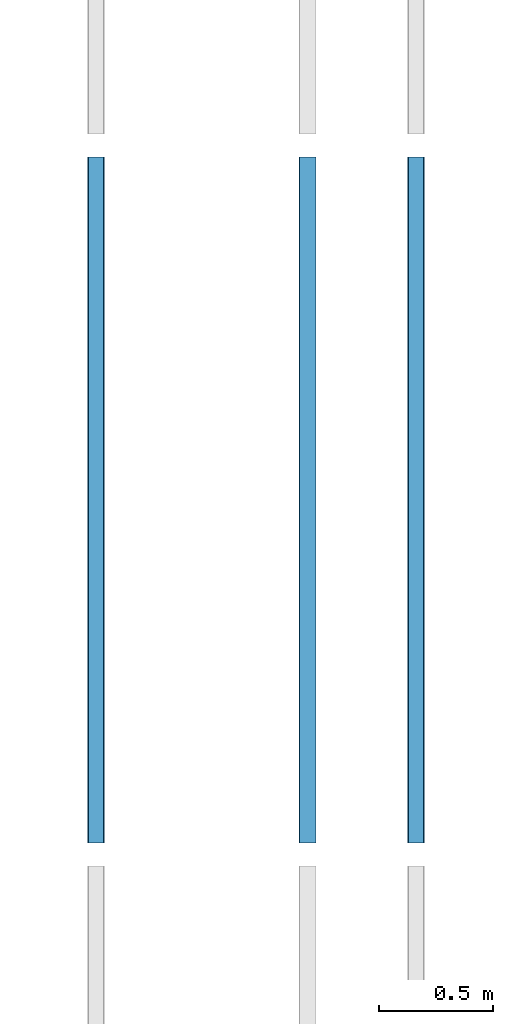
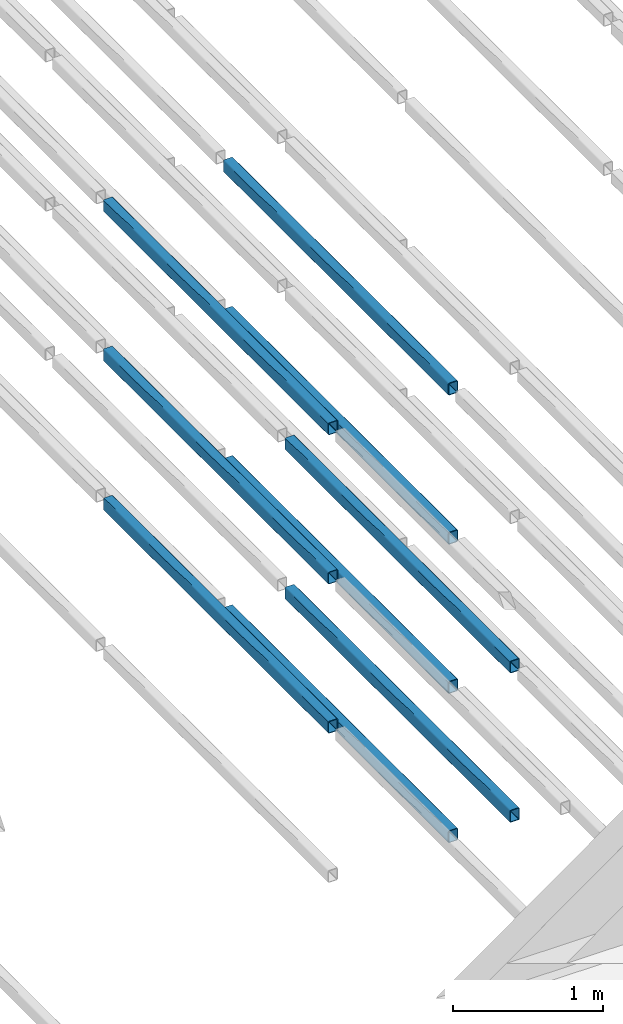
# One storey, part 29 of 290: 9 beams.
"""IFC2X3 building model written with IfcOpenShell, lengths in metres."""

import ifcopenshell
import ifcopenshell.guid

model = None  # the IFC model being written
_history = None  # IfcOwnerHistory: only IFC2X3 demands one
_inside = {}  # id of a spatial element -> (the spatial element, [elements in it])
_under = {}  # id of a project, library or spatial element -> (it, [spatial elements below it])
_declared = {}  # id of a project -> (the project, [libraries it declares])
_typed = {}  # id of a type object -> (the type object, [elements of that type])
_made_of = {}  # id of a material, layer set ... -> (it, [elements and type objects made of it])


def new_model(schema):
    """Start an empty IFC model of exactly this schema.

    Asked for "IFC4X3", IfcOpenShell would pick the latest addendum, in which some entities
    have other attributes; the version numbers below select the first issue.
    IFC2X3 requires an IfcOwnerHistory on every rooted entity: one is made here for all.
    """
    global model, _history
    if schema == "IFC4X3":
        model = ifcopenshell.file(schema_version=(4, 3, 0, 0))
    else:
        model = ifcopenshell.file(schema=schema)
    _inside.clear()
    _under.clear()
    _declared.clear()
    _typed.clear()
    _made_of.clear()
    _history = None
    if model.schema == "IFC2X3":
        org = make("IfcOrganization", Name="unknown")
        user = make(
            "IfcPersonAndOrganization",
            ThePerson=make("IfcPerson", FamilyName="unknown"),
            TheOrganization=org,
        )
        app = make(
            "IfcApplication",
            ApplicationDeveloper=org,
            Version="unknown",
            ApplicationFullName="unknown",
            ApplicationIdentifier="unknown",
        )
        _history = make(
            "IfcOwnerHistory",
            OwningUser=user,
            OwningApplication=app,
            ChangeAction="ADDED",
            CreationDate=0,
        )
    return model


def make(cls, **values):
    """One entity of the class cls with the attributes given. An attribute that is None is left unset."""
    return model.create_entity(
        cls, **{name: value for name, value in values.items() if value is not None}
    )


def entity(cls, *values):
    """Any entity or typed value of the class cls, its attributes in the order of the schema. None: left unset."""
    e = model.create_entity(cls)
    for i, value in enumerate(values):
        if value is not None:
            e[i] = value
    return e


def rooted(cls, **values):
    """An entity with a GlobalId (a new one), such as an element, a storey or a relation."""
    return make(cls, GlobalId=ifcopenshell.guid.new(), OwnerHistory=_history, **values)


def si_unit(unit_type, name, prefix=None):
    """IfcSIUnit, for example si_unit("LENGTHUNIT", "METRE", prefix="MILLI")."""
    return make("IfcSIUnit", UnitType=unit_type, Prefix=prefix, Name=name)


def converted_unit(unit_type, name, factor, base, dimensions=None, offset=None):
    """IfcConversionBasedUnit, such as the inch: factor (a typed value) times the base unit."""
    return make(
        "IfcConversionBasedUnit"
        if offset is None
        else "IfcConversionBasedUnitWithOffset",
        ConversionOffset=offset,
        Dimensions=None
        if dimensions is None
        else entity("IfcDimensionalExponents", *dimensions),
        UnitType=unit_type,
        Name=name,
        ConversionFactor=make(
            "IfcMeasureWithUnit", ValueComponent=factor, UnitComponent=base
        ),
    )


def derived_unit(unit_type, elements):
    """IfcDerivedUnit: a product of units, each with its exponent."""
    return make(
        "IfcDerivedUnit",
        Elements=[
            make("IfcDerivedUnitElement", Unit=unit, Exponent=power)
            for unit, power in elements
        ],
        UnitType=unit_type,
    )


def assignment(units):
    """IfcUnitAssignment: the units of a project."""
    return None if units is None else make("IfcUnitAssignment", Units=units)


def point(xyz):
    """IfcCartesianPoint."""
    return None if xyz is None else make("IfcCartesianPoint", Coordinates=xyz)


def direction(xyz):
    """IfcDirection."""
    return None if xyz is None else make("IfcDirection", DirectionRatios=xyz)


def frame(location, z_axis=None, x_axis=None):
    """IfcAxis2Placement3D, a coordinate frame: its origin and axes. An axis left out is left unset."""
    return make(
        "IfcAxis2Placement3D",
        Location=point(location),
        Axis=direction(z_axis),
        RefDirection=direction(x_axis),
    )


def frame_2d(location, x_axis=None):
    """IfcAxis2Placement2D, a coordinate frame in the plane: its origin and x axis."""
    return make(
        "IfcAxis2Placement2D", Location=point(location), RefDirection=direction(x_axis)
    )


def origin():
    """The frame at (0, 0, 0) with its axes left unset."""
    return frame((0.0, 0.0, 0.0))


def place(relative_to, where):
    """IfcLocalPlacement: puts the frame where relative to a parent placement (None: the world)."""
    return make(
        "IfcLocalPlacement", PlacementRelTo=relative_to, RelativePlacement=where
    )


def context(
    kind, dimensions, precision=None, world=None, true_north=None, identifier=None
):
    """IfcGeometricRepresentationContext, for example the 3D "Model" context."""
    return make(
        "IfcGeometricRepresentationContext",
        ContextIdentifier=identifier,
        ContextType=kind,
        CoordinateSpaceDimension=dimensions,
        Precision=precision,
        WorldCoordinateSystem=world,
        TrueNorth=true_north,
    )


def subcontext(parent, identifier, kind, view, scale=None):
    """IfcGeometricRepresentationSubContext, for example "Body" below "Model"."""
    return make(
        "IfcGeometricRepresentationSubContext",
        ContextIdentifier=identifier,
        ContextType=kind,
        ParentContext=parent,
        TargetScale=scale,
        TargetView=view,
    )


def project(units=None, contexts=None):
    """IfcProject with its units and contexts."""
    return rooted(
        "IfcProject",
        Name="project",
        RepresentationContexts=contexts,
        UnitsInContext=assignment(units),
    )


def spatial(cls, under=None, at=None, **own):
    """A site, building, storey or space (cls), placed at a placement, below another one or the project."""
    s = rooted(cls, ObjectPlacement=at, **own)
    if under is not None:
        _under.setdefault(under.id(), (under, []))[1].append(s)
    return s


def polyline(points):
    """IfcPolyline through the points."""
    return make("IfcPolyline", Points=[point(p) for p in points])


def circle_curve(where, radius):
    """IfcCircle in the frame where."""
    return make("IfcCircle", Position=where, Radius=radius)


def parameter(value):
    """IfcParameterValue: where a trimmed curve begins or ends, as a parameter of its basis curve."""
    return model.create_entity("IfcParameterValue", value)


def trimmed(basis, trim1, trim2, sense, master):
    """IfcTrimmedCurve: the piece of a basis curve between two trims."""
    return make(
        "IfcTrimmedCurve",
        BasisCurve=basis,
        Trim1=trim1,
        Trim2=trim2,
        SenseAgreement=sense,
        MasterRepresentation=master,
    )


def segment(curve, same_sense, transition):
    """IfcCompositeCurveSegment."""
    return make(
        "IfcCompositeCurveSegment",
        Transition=transition,
        SameSense=same_sense,
        ParentCurve=curve,
    )


def composite_curve(segments, self_intersect=None):
    """IfcCompositeCurve: segments joined end to end."""
    return make("IfcCompositeCurve", Segments=segments, SelfIntersect=self_intersect)


def outline(outer, holes=None, kind="AREA"):
    """IfcArbitraryClosedProfileDef: a profile drawn as a closed curve; with holes, ...WithVoids."""
    if holes is None:
        return make("IfcArbitraryClosedProfileDef", ProfileType=kind, OuterCurve=outer)
    return make(
        "IfcArbitraryProfileDefWithVoids",
        ProfileType=kind,
        OuterCurve=outer,
        InnerCurves=holes,
    )


def extrude(swept, where, along, depth):
    """IfcExtrudedAreaSolid: the profile swept, set in the frame where, extruded along a direction by depth."""
    return make(
        "IfcExtrudedAreaSolid",
        SweptArea=swept,
        Position=where,
        ExtrudedDirection=direction(along),
        Depth=depth,
    )


def shape(context_of_items, identifier, shape_type, items):
    """IfcShapeRepresentation: the items that make up one representation, for example the "Body"."""
    return make(
        "IfcShapeRepresentation",
        ContextOfItems=context_of_items,
        RepresentationIdentifier=identifier,
        RepresentationType=shape_type,
        Items=items,
    )


def material(Name=None, Category=None):
    """IfcMaterial."""
    return make("IfcMaterial", Name=Name, Category=Category)


def made_of(thing, what):
    """Note that an element or type object is made of a material, layer set ...; save() writes the relation."""
    if what is not None:
        _made_of.setdefault(what.id(), (what, []))[1].append(thing)
    return thing


def type_object(cls, material=None, **own):
    """A type object (cls), such as IfcWallType, which elements share."""
    return made_of(rooted(cls, **own), material)


def element(
    cls,
    number,
    at=None,
    inside=None,
    cuts=None,
    type_object=None,
    material=None,
    context=None,
    identifier="Body",
    shape_type=None,
    held_by="IfcProductDefinitionShape",
    body=None,
    shapes=None,
    **own,
):
    """One element of the class cls, such as IfcWall. Its Tag is "e" and its number.

    at: its placement. inside: the storey or other place that contains it. cuts: it is an
    opening in that element (IfcRelVoidsElement). A single representation is given by context,
    identifier, shape_type and body (its items); several are given by shapes. held_by: the class
    of the entity that holds the representations. save() writes the other relations.
    """
    e = rooted(cls, Tag="e%d" % number, ObjectPlacement=at, **own)
    if body is not None:
        shapes = [shape(context, identifier, shape_type, body)]
    if shapes is not None:
        e.Representation = make(held_by, Representations=shapes)
    if inside is not None:
        _inside.setdefault(inside.id(), (inside, []))[1].append(e)
    if cuts is not None:
        rooted(
            "IfcRelVoidsElement", RelatingBuildingElement=cuts, RelatedOpeningElement=e
        )
    if type_object is not None:
        _typed.setdefault(type_object.id(), (type_object, []))[1].append(e)
    return made_of(e, material)


def aggregate(whole, parts):
    """IfcRelAggregates: a whole, such as a stair, and the parts it consists of."""
    return rooted("IfcRelAggregates", RelatingObject=whole, RelatedObjects=parts)


def save(model, path):
    """Write the relations noted so far, then the file.

    IfcRelAggregates (storeys below a building ...), IfcRelContainedInSpatialStructure (elements
    in a storey), IfcRelDefinesByType, IfcRelAssociatesMaterial and IfcRelDeclares: one each for
    every whole, place, type object, material and project.
    """
    for whole, parts in _under.values():
        aggregate(whole, parts)
    for where, things in _inside.values():
        rooted(
            "IfcRelContainedInSpatialStructure",
            RelatedElements=things,
            RelatingStructure=where,
        )
    for kind, things in _typed.values():
        rooted("IfcRelDefinesByType", RelatedObjects=things, RelatingType=kind)
    for what, things in _made_of.values():
        rooted("IfcRelAssociatesMaterial", RelatedObjects=things, RelatingMaterial=what)
    for by, libraries in _declared.values():
        rooted("IfcRelDeclares", RelatingContext=by, RelatedDefinitions=libraries)
    model.write(path)


model = new_model("IFC2X3")

# Units and contexts
model_context = context("Model", 3, precision=1e-05, world=origin(), true_north=direction((6.12303176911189e-17, 1.0)))
body_context = subcontext(model_context, "Body", "Model", "MODEL_VIEW")
ifc_project = project(units=[si_unit("LENGTHUNIT", "METRE"), si_unit("AREAUNIT", "SQUARE_METRE"), si_unit("VOLUMEUNIT", "CUBIC_METRE"), converted_unit("PLANEANGLEUNIT", "DEGREE", entity("IfcRatioMeasure", 0.0174532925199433), si_unit("PLANEANGLEUNIT", "RADIAN"), dimensions=[0, 0, 0, 0, 0, 0, 0]), si_unit("MASSUNIT", "GRAM", prefix="KILO"), derived_unit("MASSDENSITYUNIT", [(si_unit("MASSUNIT", "GRAM", prefix="KILO"), 1), (si_unit("LENGTHUNIT", "METRE"), -3)]), derived_unit("MOMENTOFINERTIAUNIT", [(si_unit("LENGTHUNIT", "METRE"), 4)]), si_unit("TIMEUNIT", "SECOND"), si_unit("FREQUENCYUNIT", "HERTZ"), si_unit("THERMODYNAMICTEMPERATUREUNIT", "DEGREE_CELSIUS"), derived_unit("THERMALTRANSMITTANCEUNIT", [(si_unit("MASSUNIT", "GRAM", prefix="KILO"), 1), (si_unit("THERMODYNAMICTEMPERATUREUNIT", "KELVIN"), -1), (si_unit("TIMEUNIT", "SECOND"), -3)]), derived_unit("VOLUMETRICFLOWRATEUNIT", [(si_unit("LENGTHUNIT", "METRE"), 3), (si_unit("TIMEUNIT", "SECOND"), -1)]), si_unit("ELECTRICCURRENTUNIT", "AMPERE"), si_unit("ELECTRICVOLTAGEUNIT", "VOLT"), si_unit("POWERUNIT", "WATT"), si_unit("FORCEUNIT", "NEWTON", prefix="KILO"), si_unit("ILLUMINANCEUNIT", "LUX"), si_unit("LUMINOUSFLUXUNIT", "LUMEN"), si_unit("LUMINOUSINTENSITYUNIT", "CANDELA"), derived_unit("USERDEFINED", [(si_unit("MASSUNIT", "GRAM", prefix="KILO"), -1), (si_unit("LENGTHUNIT", "METRE"), -2), (si_unit("TIMEUNIT", "SECOND"), 3), (si_unit("LUMINOUSFLUXUNIT", "LUMEN"), 1)]), derived_unit("LINEARVELOCITYUNIT", [(si_unit("LENGTHUNIT", "METRE"), 1), (si_unit("TIMEUNIT", "SECOND"), -1)]), si_unit("PRESSUREUNIT", "PASCAL"), derived_unit("USERDEFINED", [(si_unit("LENGTHUNIT", "METRE"), -2), (si_unit("MASSUNIT", "GRAM", prefix="KILO"), 1), (si_unit("TIMEUNIT", "SECOND"), -2)]), derived_unit("LINEARFORCEUNIT", [(si_unit("MASSUNIT", "GRAM", prefix="KILO"), 1), (si_unit("LENGTHUNIT", "METRE"), 1), (si_unit("TIMEUNIT", "SECOND"), -2), (si_unit("LENGTHUNIT", "METRE"), -1)]), derived_unit("PLANARFORCEUNIT", [(si_unit("MASSUNIT", "GRAM", prefix="KILO"), 1), (si_unit("LENGTHUNIT", "METRE"), 1), (si_unit("TIMEUNIT", "SECOND"), -2), (si_unit("LENGTHUNIT", "METRE"), -2)])], contexts=[model_context])

# Site, building, storey
site_placement = place(None, origin())
site = spatial("IfcSite", under=ifc_project, at=site_placement, Name="Default", CompositionType="ELEMENT")
building_placement = place(site_placement, origin())
building = spatial("IfcBuilding", under=site, at=building_placement, CompositionType="ELEMENT")
storey_placement = place(building_placement, frame((0.0, 0.0, 4.0)))
storey = spatial("IfcBuildingStorey", under=building, at=storey_placement, Name="01_OG", CompositionType="ELEMENT", Elevation=4.0)

# Beams
ifc_material = material(Name="Metall - Baustahl S235 blau")
beam_type = type_object("IfcBeamType", Name="RHS Träger (EN 10219-2):RHS 100 x 75 x 5", PredefinedType="NOTDEFINED")
beam_1_placement = place(storey_placement, frame((-185.015111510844, 27.148088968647, 0.0150000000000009), z_axis=(0.0, 0.0, 1.0), x_axis=(0.0, 1.0, 0.0)))
element("IfcBeam", 1, at=beam_1_placement, inside=storey, type_object=beam_type, material=ifc_material, Name="RHS Träger (EN 10219-2):RHS 100 x 75 x 5", ObjectType="RHS Träger (EN 10219-2):RHS 100 x 75 x 5", context=body_context, shape_type="SweptSolid", body=[
    extrude(outline(composite_curve([segment(trimmed(circle_curve(frame_2d((-0.0274999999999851, -0.0400000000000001), x_axis=(1.0, 0.0)), 0.01), [parameter(180.0)], [parameter(270.0)], True, "PARAMETER"), True, "CONTINUOUS"), segment(polyline([(-0.0274999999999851, -0.05), (0.0274999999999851, -0.05)]), True, "CONTINUOUS"), segment(trimmed(circle_curve(frame_2d((0.0274999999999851, -0.0400000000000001), x_axis=(1.0, 0.0)), 0.01), [parameter(270.0)], [parameter(5.08888749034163e-14)], True, "PARAMETER"), True, "CONTINUOUS"), segment(polyline([(0.0375000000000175, -0.0400000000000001), (0.0375000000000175, 0.0400000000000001)]), True, "CONTINUOUS"), segment(trimmed(circle_curve(frame_2d((0.0274999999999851, 0.0400000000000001), x_axis=(1.0, 0.0)), 0.01), [parameter(360.0)], [parameter(89.9999999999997)], True, "PARAMETER"), True, "CONTINUOUS"), segment(polyline([(0.0274999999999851, 0.05), (-0.0274999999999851, 0.05)]), True, "CONTINUOUS"), segment(trimmed(circle_curve(frame_2d((-0.0274999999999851, 0.0400000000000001), x_axis=(1.0, 0.0)), 0.01), [parameter(90.0000000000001)], [parameter(180.0)], True, "PARAMETER"), True, "CONTINUOUS"), segment(polyline([(-0.0374999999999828, 0.0400000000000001), (-0.0374999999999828, -0.0400000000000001)]), True, "CONTINUOUS")], self_intersect=False), holes=[composite_curve([segment(polyline([(0.0274999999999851, -0.0450000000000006), (-0.0274999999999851, -0.0450000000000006)]), True, "CONTINUOUS"), segment(trimmed(circle_curve(frame_2d((-0.0274999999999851, -0.0400000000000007), x_axis=(1.0, 0.0)), 0.005), [parameter(180.0)], [parameter(270.0)], True, "PARAMETER"), False, "CONTINUOUS"), segment(polyline([(-0.0325000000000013, -0.0400000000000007), (-0.0325000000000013, 0.039999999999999)]), True, "CONTINUOUS"), segment(trimmed(circle_curve(frame_2d((-0.0274999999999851, 0.039999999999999), x_axis=(1.0, 0.0)), 0.005), [parameter(90.0000000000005)], [parameter(180.0)], True, "PARAMETER"), False, "CONTINUOUS"), segment(polyline([(-0.0274999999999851, 0.044999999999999), (0.0274999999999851, 0.044999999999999)]), True, "CONTINUOUS"), segment(trimmed(circle_curve(frame_2d((0.0274999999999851, 0.039999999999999), x_axis=(1.0, 0.0)), 0.005), [parameter(0.0)], [parameter(90.0000000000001)], True, "PARAMETER"), False, "CONTINUOUS"), segment(polyline([(0.0325000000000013, 0.039999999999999), (0.0325000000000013, -0.0400000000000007)]), True, "CONTINUOUS"), segment(trimmed(circle_curve(frame_2d((0.0274999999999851, -0.0400000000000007), x_axis=(1.0, 0.0)), 0.005), [parameter(270.0)], [parameter(4.07110999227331e-13)], True, "PARAMETER"), False, "CONTINUOUS")], self_intersect=False)]), frame((9.99999999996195e-05, 0.0375000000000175, -0.0500000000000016), z_axis=(1.0, 0.0, 0.0), x_axis=(0.0, -1.0, 0.0)), (0.0, 0.0, 1.0), 2.9998),
])
beam_2_placement = place(storey_placement, frame((-185.015111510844, 27.148088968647, 1.23), z_axis=(0.0, 0.0, 1.0), x_axis=(0.0, 1.0, 0.0)))
element("IfcBeam", 2, at=beam_2_placement, inside=storey, type_object=beam_type, material=ifc_material, Name="RHS Träger (EN 10219-2):RHS 100 x 75 x 5", ObjectType="RHS Träger (EN 10219-2):RHS 100 x 75 x 5", context=body_context, shape_type="SweptSolid", body=[
    extrude(outline(composite_curve([segment(trimmed(circle_curve(frame_2d((-0.0274999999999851, -0.0399999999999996), x_axis=(1.0, 0.0)), 0.01), [parameter(180.0)], [parameter(270.0)], True, "PARAMETER"), True, "CONTINUOUS"), segment(polyline([(-0.0274999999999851, -0.0499999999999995), (0.0274999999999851, -0.0499999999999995)]), True, "CONTINUOUS"), segment(trimmed(circle_curve(frame_2d((0.0274999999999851, -0.0399999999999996), x_axis=(1.0, 0.0)), 0.01), [parameter(270.0)], [parameter(5.08888749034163e-14)], True, "PARAMETER"), True, "CONTINUOUS"), segment(polyline([(0.0375000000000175, -0.0399999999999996), (0.0375000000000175, 0.0399999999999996)]), True, "CONTINUOUS"), segment(trimmed(circle_curve(frame_2d((0.0274999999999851, 0.0399999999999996), x_axis=(1.0, 0.0)), 0.01), [parameter(360.0)], [parameter(89.9999999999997)], True, "PARAMETER"), True, "CONTINUOUS"), segment(polyline([(0.0274999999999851, 0.0500000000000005), (-0.0274999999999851, 0.0500000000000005)]), True, "CONTINUOUS"), segment(trimmed(circle_curve(frame_2d((-0.0274999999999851, 0.0399999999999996), x_axis=(1.0, 0.0)), 0.01), [parameter(90.0000000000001)], [parameter(180.0)], True, "PARAMETER"), True, "CONTINUOUS"), segment(polyline([(-0.0374999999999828, 0.0399999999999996), (-0.0374999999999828, -0.0399999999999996)]), True, "CONTINUOUS")], self_intersect=False), holes=[composite_curve([segment(polyline([(0.0274999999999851, -0.0450000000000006), (-0.0274999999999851, -0.0450000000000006)]), True, "CONTINUOUS"), segment(trimmed(circle_curve(frame_2d((-0.0274999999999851, -0.0400000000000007), x_axis=(1.0, 0.0)), 0.005), [parameter(180.0)], [parameter(270.0)], True, "PARAMETER"), False, "CONTINUOUS"), segment(polyline([(-0.0325000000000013, -0.0400000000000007), (-0.0325000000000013, 0.0399999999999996)]), True, "CONTINUOUS"), segment(trimmed(circle_curve(frame_2d((-0.0274999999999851, 0.0399999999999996), x_axis=(1.0, 0.0)), 0.005), [parameter(90.0000000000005)], [parameter(180.0)], True, "PARAMETER"), False, "CONTINUOUS"), segment(polyline([(-0.0274999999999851, 0.0449999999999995), (0.0274999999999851, 0.0449999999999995)]), True, "CONTINUOUS"), segment(trimmed(circle_curve(frame_2d((0.0274999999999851, 0.0399999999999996), x_axis=(1.0, 0.0)), 0.005), [parameter(0.0)], [parameter(90.0000000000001)], True, "PARAMETER"), False, "CONTINUOUS"), segment(polyline([(0.0325000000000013, 0.0399999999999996), (0.0325000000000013, -0.0400000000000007)]), True, "CONTINUOUS"), segment(trimmed(circle_curve(frame_2d((0.0274999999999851, -0.0400000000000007), x_axis=(1.0, 0.0)), 0.005), [parameter(270.0)], [parameter(4.07110999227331e-13)], True, "PARAMETER"), False, "CONTINUOUS")], self_intersect=False)]), frame((9.99999999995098e-05, 0.0375000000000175, -0.0500000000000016), z_axis=(1.0, 0.0, 0.0), x_axis=(0.0, -1.0, 0.0)), (0.0, 0.0, 1.0), 2.9998),
])
beam_3_placement = place(storey_placement, frame((-185.015111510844, 27.148088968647, 2.445), z_axis=(0.0, 0.0, 1.0), x_axis=(0.0, 1.0, 0.0)))
element("IfcBeam", 3, at=beam_3_placement, inside=storey, type_object=beam_type, material=ifc_material, Name="RHS Träger (EN 10219-2):RHS 100 x 75 x 5", ObjectType="RHS Träger (EN 10219-2):RHS 100 x 75 x 5", context=body_context, shape_type="SweptSolid", body=[
    extrude(outline(composite_curve([segment(trimmed(circle_curve(frame_2d((-0.0274999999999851, -0.0399999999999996), x_axis=(1.0, 0.0)), 0.01), [parameter(180.0)], [parameter(270.0)], True, "PARAMETER"), True, "CONTINUOUS"), segment(polyline([(-0.0274999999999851, -0.0499999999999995), (0.0274999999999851, -0.0499999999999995)]), True, "CONTINUOUS"), segment(trimmed(circle_curve(frame_2d((0.0274999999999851, -0.0399999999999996), x_axis=(1.0, 0.0)), 0.01), [parameter(270.0)], [parameter(5.08888749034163e-14)], True, "PARAMETER"), True, "CONTINUOUS"), segment(polyline([(0.0375000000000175, -0.0399999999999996), (0.0375000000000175, 0.0399999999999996)]), True, "CONTINUOUS"), segment(trimmed(circle_curve(frame_2d((0.0274999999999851, 0.0399999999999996), x_axis=(1.0, 0.0)), 0.01), [parameter(360.0)], [parameter(89.9999999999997)], True, "PARAMETER"), True, "CONTINUOUS"), segment(polyline([(0.0274999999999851, 0.0500000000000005), (-0.0274999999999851, 0.0500000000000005)]), True, "CONTINUOUS"), segment(trimmed(circle_curve(frame_2d((-0.0274999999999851, 0.0399999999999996), x_axis=(1.0, 0.0)), 0.01), [parameter(90.0000000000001)], [parameter(180.0)], True, "PARAMETER"), True, "CONTINUOUS"), segment(polyline([(-0.0374999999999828, 0.0399999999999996), (-0.0374999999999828, -0.0399999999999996)]), True, "CONTINUOUS")], self_intersect=False), holes=[composite_curve([segment(polyline([(0.0274999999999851, -0.0450000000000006), (-0.0274999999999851, -0.0450000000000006)]), True, "CONTINUOUS"), segment(trimmed(circle_curve(frame_2d((-0.0274999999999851, -0.0400000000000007), x_axis=(1.0, 0.0)), 0.005), [parameter(180.0)], [parameter(270.0)], True, "PARAMETER"), False, "CONTINUOUS"), segment(polyline([(-0.0325000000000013, -0.0400000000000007), (-0.0325000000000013, 0.0399999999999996)]), True, "CONTINUOUS"), segment(trimmed(circle_curve(frame_2d((-0.0274999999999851, 0.0399999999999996), x_axis=(1.0, 0.0)), 0.005), [parameter(90.0000000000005)], [parameter(180.0)], True, "PARAMETER"), False, "CONTINUOUS"), segment(polyline([(-0.0274999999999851, 0.0449999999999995), (0.0274999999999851, 0.0449999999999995)]), True, "CONTINUOUS"), segment(trimmed(circle_curve(frame_2d((0.0274999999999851, 0.0399999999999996), x_axis=(1.0, 0.0)), 0.005), [parameter(0.0)], [parameter(90.0000000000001)], True, "PARAMETER"), False, "CONTINUOUS"), segment(polyline([(0.0325000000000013, 0.0399999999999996), (0.0325000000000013, -0.0400000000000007)]), True, "CONTINUOUS"), segment(trimmed(circle_curve(frame_2d((0.0274999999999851, -0.0400000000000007), x_axis=(1.0, 0.0)), 0.005), [parameter(270.0)], [parameter(4.07110999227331e-13)], True, "PARAMETER"), False, "CONTINUOUS")], self_intersect=False)]), frame((9.99999999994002e-05, 0.0375000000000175, -0.0500000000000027), z_axis=(1.0, 0.0, 0.0), x_axis=(0.0, -1.0, 0.0)), (0.0, 0.0, 1.0), 2.9998),
])
beam_4_placement = place(storey_placement, frame((-184.165111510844, 27.148088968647, -1.2), z_axis=(0.0, 0.0, 1.0), x_axis=(0.0, 1.0, 0.0)))
element("IfcBeam", 4, at=beam_4_placement, inside=storey, type_object=beam_type, material=ifc_material, Name="RHS Träger (EN 10219-2):RHS 100 x 75 x 5", ObjectType="RHS Träger (EN 10219-2):RHS 100 x 75 x 5", context=body_context, shape_type="SweptSolid", body=[
    extrude(outline(composite_curve([segment(polyline([(-0.0400000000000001, -0.0374999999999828), (0.0400000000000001, -0.0374999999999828)]), True, "CONTINUOUS"), segment(trimmed(circle_curve(frame_2d((0.0400000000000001, -0.0274999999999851), x_axis=(0.0, 1.0)), 0.01), [parameter(180.0)], [parameter(270.0)], True, "PARAMETER"), True, "CONTINUOUS"), segment(polyline([(0.05, -0.0274999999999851), (0.05, 0.0274999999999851)]), True, "CONTINUOUS"), segment(trimmed(circle_curve(frame_2d((0.0400000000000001, 0.0274999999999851), x_axis=(0.0, 1.0)), 0.01), [parameter(270.0)], [parameter(4.07110999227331e-13)], True, "PARAMETER"), True, "CONTINUOUS"), segment(polyline([(0.0400000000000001, 0.0375000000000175), (-0.0400000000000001, 0.0375000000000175)]), True, "CONTINUOUS"), segment(trimmed(circle_curve(frame_2d((-0.0400000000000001, 0.0274999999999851), x_axis=(0.0, 1.0)), 0.01), [parameter(360.0)], [parameter(90.0000000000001)], True, "PARAMETER"), True, "CONTINUOUS"), segment(polyline([(-0.05, 0.0274999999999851), (-0.05, -0.0274999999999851)]), True, "CONTINUOUS"), segment(trimmed(circle_curve(frame_2d((-0.0400000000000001, -0.0274999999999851), x_axis=(0.0, 1.0)), 0.01), [parameter(90.0000000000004)], [parameter(180.0)], True, "PARAMETER"), True, "CONTINUOUS")], self_intersect=False), holes=[composite_curve([segment(trimmed(circle_curve(frame_2d((-0.0400000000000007, 0.0274999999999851), x_axis=(0.0, 1.0)), 0.005), [parameter(360.0)], [parameter(89.9999999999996)], True, "PARAMETER"), False, "CONTINUOUS"), segment(polyline([(-0.0400000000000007, 0.0325000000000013), (0.039999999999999, 0.0325000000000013)]), True, "CONTINUOUS"), segment(trimmed(circle_curve(frame_2d((0.039999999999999, 0.0274999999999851), x_axis=(0.0, 1.0)), 0.005), [parameter(270.0)], [parameter(0.0)], True, "PARAMETER"), False, "CONTINUOUS"), segment(polyline([(0.044999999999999, 0.0274999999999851), (0.044999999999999, -0.0274999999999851)]), True, "CONTINUOUS"), segment(trimmed(circle_curve(frame_2d((0.039999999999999, -0.0274999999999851), x_axis=(0.0, 1.0)), 0.005), [parameter(180.0)], [parameter(269.999999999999)], True, "PARAMETER"), False, "CONTINUOUS"), segment(polyline([(0.039999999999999, -0.0325000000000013), (-0.0400000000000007, -0.0325000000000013)]), True, "CONTINUOUS"), segment(trimmed(circle_curve(frame_2d((-0.0400000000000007, -0.0274999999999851), x_axis=(0.0, 1.0)), 0.005), [parameter(90.0000000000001)], [parameter(180.0)], True, "PARAMETER"), False, "CONTINUOUS"), segment(polyline([(-0.0450000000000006, -0.0274999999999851), (-0.0450000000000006, 0.0274999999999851)]), True, "CONTINUOUS")], self_intersect=False)]), frame((9.99999999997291e-05, -0.0375000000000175, -0.0500000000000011), z_axis=(1.0, 0.0, 0.0), x_axis=(0.0, 0.0, -1.0)), (0.0, 0.0, 1.0), 2.9998),
])
beam_5_placement = place(storey_placement, frame((-184.165111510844, 27.148088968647, 0.0150000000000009), z_axis=(0.0, 0.0, 1.0), x_axis=(0.0, 1.0, 0.0)))
element("IfcBeam", 5, at=beam_5_placement, inside=storey, type_object=beam_type, material=ifc_material, Name="RHS Träger (EN 10219-2):RHS 100 x 75 x 5", ObjectType="RHS Träger (EN 10219-2):RHS 100 x 75 x 5", context=body_context, shape_type="SweptSolid", body=[
    extrude(outline(composite_curve([segment(polyline([(-0.0400000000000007, -0.0374999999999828), (0.0399999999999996, -0.0374999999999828)]), True, "CONTINUOUS"), segment(trimmed(circle_curve(frame_2d((0.0399999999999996, -0.0274999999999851), x_axis=(0.0, 1.0)), 0.01), [parameter(180.0)], [parameter(270.0)], True, "PARAMETER"), True, "CONTINUOUS"), segment(polyline([(0.0499999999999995, -0.0274999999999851), (0.0499999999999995, 0.0274999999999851)]), True, "CONTINUOUS"), segment(trimmed(circle_curve(frame_2d((0.0399999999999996, 0.0274999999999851), x_axis=(0.0, 1.0)), 0.01), [parameter(270.0)], [parameter(4.07110999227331e-13)], True, "PARAMETER"), True, "CONTINUOUS"), segment(polyline([(0.0399999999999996, 0.0375000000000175), (-0.0400000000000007, 0.0375000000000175)]), True, "CONTINUOUS"), segment(trimmed(circle_curve(frame_2d((-0.0400000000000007, 0.0274999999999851), x_axis=(0.0, 1.0)), 0.01), [parameter(360.0)], [parameter(90.0000000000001)], True, "PARAMETER"), True, "CONTINUOUS"), segment(polyline([(-0.0500000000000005, 0.0274999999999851), (-0.0500000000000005, -0.0274999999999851)]), True, "CONTINUOUS"), segment(trimmed(circle_curve(frame_2d((-0.0400000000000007, -0.0274999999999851), x_axis=(0.0, 1.0)), 0.01), [parameter(90.0000000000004)], [parameter(180.0)], True, "PARAMETER"), True, "CONTINUOUS")], self_intersect=False), holes=[composite_curve([segment(trimmed(circle_curve(frame_2d((-0.0400000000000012, 0.0274999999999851), x_axis=(0.0, 1.0)), 0.005), [parameter(360.0)], [parameter(89.9999999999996)], True, "PARAMETER"), False, "CONTINUOUS"), segment(polyline([(-0.0400000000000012, 0.0325000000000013), (0.0399999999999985, 0.0325000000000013)]), True, "CONTINUOUS"), segment(trimmed(circle_curve(frame_2d((0.0399999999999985, 0.0274999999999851), x_axis=(0.0, 1.0)), 0.005), [parameter(270.0)], [parameter(0.0)], True, "PARAMETER"), False, "CONTINUOUS"), segment(polyline([(0.0449999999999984, 0.0274999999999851), (0.0449999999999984, -0.0274999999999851)]), True, "CONTINUOUS"), segment(trimmed(circle_curve(frame_2d((0.0399999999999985, -0.0274999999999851), x_axis=(0.0, 1.0)), 0.005), [parameter(180.0)], [parameter(269.999999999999)], True, "PARAMETER"), False, "CONTINUOUS"), segment(polyline([(0.0399999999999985, -0.0325000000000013), (-0.0400000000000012, -0.0325000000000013)]), True, "CONTINUOUS"), segment(trimmed(circle_curve(frame_2d((-0.0400000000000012, -0.0274999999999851), x_axis=(0.0, 1.0)), 0.005), [parameter(90.0000000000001)], [parameter(180.0)], True, "PARAMETER"), False, "CONTINUOUS"), segment(polyline([(-0.0450000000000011, -0.0274999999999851), (-0.0450000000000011, 0.0274999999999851)]), True, "CONTINUOUS")], self_intersect=False)]), frame((9.99999999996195e-05, -0.0375000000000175, -0.0500000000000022), z_axis=(1.0, 0.0, 0.0), x_axis=(0.0, 0.0, -1.0)), (0.0, 0.0, 1.0), 2.9998),
])
beam_6_placement = place(storey_placement, frame((-184.165111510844, 27.148088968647, 1.23), z_axis=(0.0, 0.0, 1.0), x_axis=(0.0, 1.0, 0.0)))
element("IfcBeam", 6, at=beam_6_placement, inside=storey, type_object=beam_type, material=ifc_material, Name="RHS Träger (EN 10219-2):RHS 100 x 75 x 5", ObjectType="RHS Träger (EN 10219-2):RHS 100 x 75 x 5", context=body_context, shape_type="SweptSolid", body=[
    extrude(outline(composite_curve([segment(polyline([(-0.0399999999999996, -0.0374999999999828), (0.0399999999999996, -0.0374999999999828)]), True, "CONTINUOUS"), segment(trimmed(circle_curve(frame_2d((0.0399999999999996, -0.0274999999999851), x_axis=(0.0, 1.0)), 0.01), [parameter(180.0)], [parameter(270.0)], True, "PARAMETER"), True, "CONTINUOUS"), segment(polyline([(0.0500000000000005, -0.0274999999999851), (0.0500000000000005, 0.0274999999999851)]), True, "CONTINUOUS"), segment(trimmed(circle_curve(frame_2d((0.0399999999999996, 0.0274999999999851), x_axis=(0.0, 1.0)), 0.01), [parameter(270.0)], [parameter(4.07110999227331e-13)], True, "PARAMETER"), True, "CONTINUOUS"), segment(polyline([(0.0399999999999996, 0.0375000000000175), (-0.0399999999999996, 0.0375000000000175)]), True, "CONTINUOUS"), segment(trimmed(circle_curve(frame_2d((-0.0399999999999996, 0.0274999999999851), x_axis=(0.0, 1.0)), 0.01), [parameter(360.0)], [parameter(90.0000000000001)], True, "PARAMETER"), True, "CONTINUOUS"), segment(polyline([(-0.0499999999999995, 0.0274999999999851), (-0.0499999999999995, -0.0274999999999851)]), True, "CONTINUOUS"), segment(trimmed(circle_curve(frame_2d((-0.0399999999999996, -0.0274999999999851), x_axis=(0.0, 1.0)), 0.01), [parameter(90.0000000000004)], [parameter(180.0)], True, "PARAMETER"), True, "CONTINUOUS")], self_intersect=False), holes=[composite_curve([segment(trimmed(circle_curve(frame_2d((-0.0400000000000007, 0.0274999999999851), x_axis=(0.0, 1.0)), 0.005), [parameter(360.0)], [parameter(89.9999999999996)], True, "PARAMETER"), False, "CONTINUOUS"), segment(polyline([(-0.0400000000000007, 0.0325000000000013), (0.0399999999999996, 0.0325000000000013)]), True, "CONTINUOUS"), segment(trimmed(circle_curve(frame_2d((0.0399999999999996, 0.0274999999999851), x_axis=(0.0, 1.0)), 0.005), [parameter(270.0)], [parameter(0.0)], True, "PARAMETER"), False, "CONTINUOUS"), segment(polyline([(0.0449999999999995, 0.0274999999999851), (0.0449999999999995, -0.0274999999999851)]), True, "CONTINUOUS"), segment(trimmed(circle_curve(frame_2d((0.0399999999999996, -0.0274999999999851), x_axis=(0.0, 1.0)), 0.005), [parameter(180.0)], [parameter(269.999999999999)], True, "PARAMETER"), False, "CONTINUOUS"), segment(polyline([(0.0399999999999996, -0.0325000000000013), (-0.0400000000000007, -0.0325000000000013)]), True, "CONTINUOUS"), segment(trimmed(circle_curve(frame_2d((-0.0400000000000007, -0.0274999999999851), x_axis=(0.0, 1.0)), 0.005), [parameter(90.0000000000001)], [parameter(180.0)], True, "PARAMETER"), False, "CONTINUOUS"), segment(polyline([(-0.0450000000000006, -0.0274999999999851), (-0.0450000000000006, 0.0274999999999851)]), True, "CONTINUOUS")], self_intersect=False)]), frame((9.99999999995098e-05, -0.0375000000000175, -0.0500000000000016), z_axis=(1.0, 0.0, 0.0), x_axis=(0.0, 0.0, -1.0)), (0.0, 0.0, 1.0), 2.9998),
])
beam_7_placement = place(storey_placement, frame((-184.165111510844, 27.148088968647, 2.445), z_axis=(0.0, 0.0, 1.0), x_axis=(0.0, 1.0, 0.0)))
element("IfcBeam", 7, at=beam_7_placement, inside=storey, type_object=beam_type, material=ifc_material, Name="RHS Träger (EN 10219-2):RHS 100 x 75 x 5", ObjectType="RHS Träger (EN 10219-2):RHS 100 x 75 x 5", context=body_context, shape_type="SweptSolid", body=[
    extrude(outline(composite_curve([segment(polyline([(-0.0399999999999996, -0.0374999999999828), (0.0399999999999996, -0.0374999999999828)]), True, "CONTINUOUS"), segment(trimmed(circle_curve(frame_2d((0.0399999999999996, -0.0274999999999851), x_axis=(0.0, 1.0)), 0.01), [parameter(180.0)], [parameter(270.0)], True, "PARAMETER"), True, "CONTINUOUS"), segment(polyline([(0.0500000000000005, -0.0274999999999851), (0.0500000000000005, 0.0274999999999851)]), True, "CONTINUOUS"), segment(trimmed(circle_curve(frame_2d((0.0399999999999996, 0.0274999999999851), x_axis=(0.0, 1.0)), 0.01), [parameter(270.0)], [parameter(4.07110999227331e-13)], True, "PARAMETER"), True, "CONTINUOUS"), segment(polyline([(0.0399999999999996, 0.0375000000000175), (-0.0399999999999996, 0.0375000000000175)]), True, "CONTINUOUS"), segment(trimmed(circle_curve(frame_2d((-0.0399999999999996, 0.0274999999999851), x_axis=(0.0, 1.0)), 0.01), [parameter(360.0)], [parameter(90.0000000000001)], True, "PARAMETER"), True, "CONTINUOUS"), segment(polyline([(-0.0499999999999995, 0.0274999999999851), (-0.0499999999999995, -0.0274999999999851)]), True, "CONTINUOUS"), segment(trimmed(circle_curve(frame_2d((-0.0399999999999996, -0.0274999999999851), x_axis=(0.0, 1.0)), 0.01), [parameter(90.0000000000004)], [parameter(180.0)], True, "PARAMETER"), True, "CONTINUOUS")], self_intersect=False), holes=[composite_curve([segment(trimmed(circle_curve(frame_2d((-0.0400000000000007, 0.0274999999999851), x_axis=(0.0, 1.0)), 0.005), [parameter(360.0)], [parameter(89.9999999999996)], True, "PARAMETER"), False, "CONTINUOUS"), segment(polyline([(-0.0400000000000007, 0.0325000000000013), (0.0399999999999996, 0.0325000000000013)]), True, "CONTINUOUS"), segment(trimmed(circle_curve(frame_2d((0.0399999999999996, 0.0274999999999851), x_axis=(0.0, 1.0)), 0.005), [parameter(270.0)], [parameter(0.0)], True, "PARAMETER"), False, "CONTINUOUS"), segment(polyline([(0.0449999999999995, 0.0274999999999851), (0.0449999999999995, -0.0274999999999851)]), True, "CONTINUOUS"), segment(trimmed(circle_curve(frame_2d((0.0399999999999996, -0.0274999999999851), x_axis=(0.0, 1.0)), 0.005), [parameter(180.0)], [parameter(269.999999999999)], True, "PARAMETER"), False, "CONTINUOUS"), segment(polyline([(0.0399999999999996, -0.0325000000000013), (-0.0400000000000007, -0.0325000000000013)]), True, "CONTINUOUS"), segment(trimmed(circle_curve(frame_2d((-0.0400000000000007, -0.0274999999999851), x_axis=(0.0, 1.0)), 0.005), [parameter(90.0000000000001)], [parameter(180.0)], True, "PARAMETER"), False, "CONTINUOUS"), segment(polyline([(-0.0450000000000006, -0.0274999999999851), (-0.0450000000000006, 0.0274999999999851)]), True, "CONTINUOUS")], self_intersect=False)]), frame((9.99999999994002e-05, -0.0375000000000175, -0.0500000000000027), z_axis=(1.0, 0.0, 0.0), x_axis=(0.0, 0.0, -1.0)), (0.0, 0.0, 1.0), 2.9998),
])
beam_8_placement = place(storey_placement, frame((-183.615111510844, 27.148088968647, -1.2), z_axis=(0.0, 0.0, 1.0), x_axis=(0.0, 1.0, 0.0)))
element("IfcBeam", 8, at=beam_8_placement, inside=storey, type_object=beam_type, material=ifc_material, Name="RHS Träger (EN 10219-2):RHS 100 x 75 x 5", ObjectType="RHS Träger (EN 10219-2):RHS 100 x 75 x 5", context=body_context, shape_type="SweptSolid", body=[
    extrude(outline(composite_curve([segment(trimmed(circle_curve(frame_2d((-0.0274999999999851, -0.0400000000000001), x_axis=(1.0, 0.0)), 0.01), [parameter(180.0)], [parameter(270.0)], True, "PARAMETER"), True, "CONTINUOUS"), segment(polyline([(-0.0274999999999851, -0.05), (0.0274999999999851, -0.05)]), True, "CONTINUOUS"), segment(trimmed(circle_curve(frame_2d((0.0274999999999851, -0.0400000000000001), x_axis=(1.0, 0.0)), 0.01), [parameter(270.0)], [parameter(5.08888749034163e-14)], True, "PARAMETER"), True, "CONTINUOUS"), segment(polyline([(0.0375000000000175, -0.0400000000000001), (0.0375000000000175, 0.0400000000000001)]), True, "CONTINUOUS"), segment(trimmed(circle_curve(frame_2d((0.0274999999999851, 0.0400000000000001), x_axis=(1.0, 0.0)), 0.01), [parameter(360.0)], [parameter(89.9999999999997)], True, "PARAMETER"), True, "CONTINUOUS"), segment(polyline([(0.0274999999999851, 0.05), (-0.0274999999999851, 0.05)]), True, "CONTINUOUS"), segment(trimmed(circle_curve(frame_2d((-0.0274999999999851, 0.0400000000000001), x_axis=(1.0, 0.0)), 0.01), [parameter(90.0000000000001)], [parameter(180.0)], True, "PARAMETER"), True, "CONTINUOUS"), segment(polyline([(-0.0374999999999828, 0.0400000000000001), (-0.0374999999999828, -0.0400000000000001)]), True, "CONTINUOUS")], self_intersect=False), holes=[composite_curve([segment(polyline([(0.0274999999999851, -0.0450000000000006), (-0.0274999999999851, -0.0450000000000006)]), True, "CONTINUOUS"), segment(trimmed(circle_curve(frame_2d((-0.0274999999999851, -0.0400000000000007), x_axis=(1.0, 0.0)), 0.005), [parameter(180.0)], [parameter(270.0)], True, "PARAMETER"), False, "CONTINUOUS"), segment(polyline([(-0.0325000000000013, -0.0400000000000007), (-0.0325000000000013, 0.039999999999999)]), True, "CONTINUOUS"), segment(trimmed(circle_curve(frame_2d((-0.0274999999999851, 0.039999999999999), x_axis=(1.0, 0.0)), 0.005), [parameter(90.0000000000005)], [parameter(180.0)], True, "PARAMETER"), False, "CONTINUOUS"), segment(polyline([(-0.0274999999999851, 0.044999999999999), (0.0274999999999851, 0.044999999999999)]), True, "CONTINUOUS"), segment(trimmed(circle_curve(frame_2d((0.0274999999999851, 0.039999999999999), x_axis=(1.0, 0.0)), 0.005), [parameter(0.0)], [parameter(90.0000000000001)], True, "PARAMETER"), False, "CONTINUOUS"), segment(polyline([(0.0325000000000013, 0.039999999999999), (0.0325000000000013, -0.0400000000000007)]), True, "CONTINUOUS"), segment(trimmed(circle_curve(frame_2d((0.0274999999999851, -0.0400000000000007), x_axis=(1.0, 0.0)), 0.005), [parameter(270.0)], [parameter(4.07110999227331e-13)], True, "PARAMETER"), False, "CONTINUOUS")], self_intersect=False)]), frame((0.000100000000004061, 0.0375000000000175, -0.0500000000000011), z_axis=(1.0, 0.0, 0.0), x_axis=(0.0, -1.0, 0.0)), (0.0, 0.0, 1.0), 2.9998),
])
beam_9_placement = place(storey_placement, frame((-183.615111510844, 27.148088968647, 0.0150000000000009), z_axis=(0.0, 0.0, 1.0), x_axis=(0.0, 1.0, 0.0)))
element("IfcBeam", 9, at=beam_9_placement, inside=storey, type_object=beam_type, material=ifc_material, Name="RHS Träger (EN 10219-2):RHS 100 x 75 x 5", ObjectType="RHS Träger (EN 10219-2):RHS 100 x 75 x 5", context=body_context, shape_type="SweptSolid", body=[
    extrude(outline(composite_curve([segment(trimmed(circle_curve(frame_2d((-0.0274999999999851, -0.0400000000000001), x_axis=(1.0, 0.0)), 0.01), [parameter(180.0)], [parameter(270.0)], True, "PARAMETER"), True, "CONTINUOUS"), segment(polyline([(-0.0274999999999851, -0.05), (0.0274999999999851, -0.05)]), True, "CONTINUOUS"), segment(trimmed(circle_curve(frame_2d((0.0274999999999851, -0.0400000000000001), x_axis=(1.0, 0.0)), 0.01), [parameter(270.0)], [parameter(5.08888749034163e-14)], True, "PARAMETER"), True, "CONTINUOUS"), segment(polyline([(0.0375000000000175, -0.0400000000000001), (0.0375000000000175, 0.0400000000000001)]), True, "CONTINUOUS"), segment(trimmed(circle_curve(frame_2d((0.0274999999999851, 0.0400000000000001), x_axis=(1.0, 0.0)), 0.01), [parameter(360.0)], [parameter(89.9999999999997)], True, "PARAMETER"), True, "CONTINUOUS"), segment(polyline([(0.0274999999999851, 0.05), (-0.0274999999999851, 0.05)]), True, "CONTINUOUS"), segment(trimmed(circle_curve(frame_2d((-0.0274999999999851, 0.0400000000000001), x_axis=(1.0, 0.0)), 0.01), [parameter(90.0000000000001)], [parameter(180.0)], True, "PARAMETER"), True, "CONTINUOUS"), segment(polyline([(-0.0374999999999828, 0.0400000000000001), (-0.0374999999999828, -0.0400000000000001)]), True, "CONTINUOUS")], self_intersect=False), holes=[composite_curve([segment(polyline([(0.0274999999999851, -0.0450000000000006), (-0.0274999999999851, -0.0450000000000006)]), True, "CONTINUOUS"), segment(trimmed(circle_curve(frame_2d((-0.0274999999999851, -0.0400000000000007), x_axis=(1.0, 0.0)), 0.005), [parameter(180.0)], [parameter(270.0)], True, "PARAMETER"), False, "CONTINUOUS"), segment(polyline([(-0.0325000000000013, -0.0400000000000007), (-0.0325000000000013, 0.039999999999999)]), True, "CONTINUOUS"), segment(trimmed(circle_curve(frame_2d((-0.0274999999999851, 0.039999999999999), x_axis=(1.0, 0.0)), 0.005), [parameter(90.0000000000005)], [parameter(180.0)], True, "PARAMETER"), False, "CONTINUOUS"), segment(polyline([(-0.0274999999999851, 0.044999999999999), (0.0274999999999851, 0.044999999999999)]), True, "CONTINUOUS"), segment(trimmed(circle_curve(frame_2d((0.0274999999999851, 0.039999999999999), x_axis=(1.0, 0.0)), 0.005), [parameter(0.0)], [parameter(90.0000000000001)], True, "PARAMETER"), False, "CONTINUOUS"), segment(polyline([(0.0325000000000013, 0.039999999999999), (0.0325000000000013, -0.0400000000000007)]), True, "CONTINUOUS"), segment(trimmed(circle_curve(frame_2d((0.0274999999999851, -0.0400000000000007), x_axis=(1.0, 0.0)), 0.005), [parameter(270.0)], [parameter(4.07110999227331e-13)], True, "PARAMETER"), False, "CONTINUOUS")], self_intersect=False)]), frame((0.000100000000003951, 0.0375000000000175, -0.0500000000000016), z_axis=(1.0, 0.0, 0.0), x_axis=(0.0, -1.0, 0.0)), (0.0, 0.0, 1.0), 2.9998),
])

save(model, "model.ifc")
